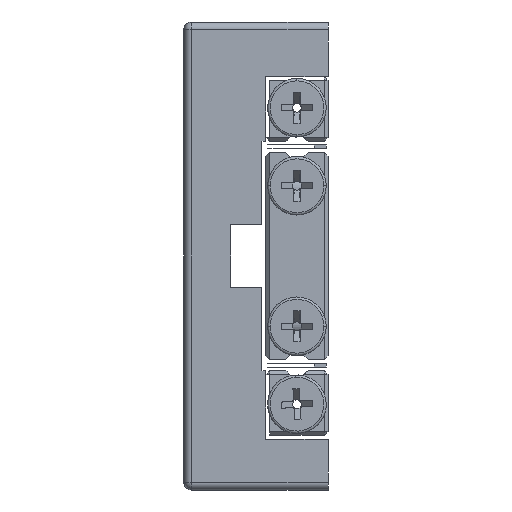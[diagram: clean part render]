
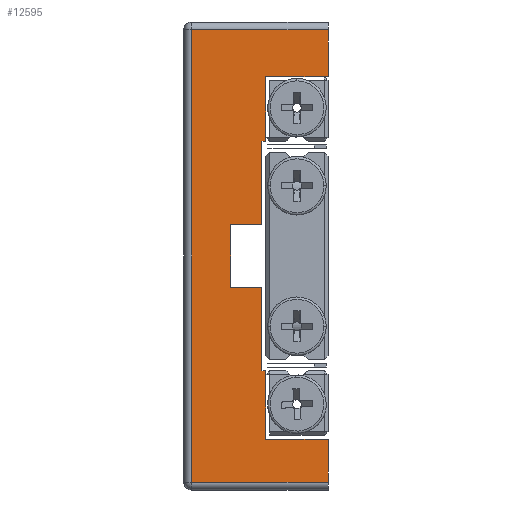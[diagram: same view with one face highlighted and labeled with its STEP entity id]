
A CAD part, left-side view. The second image highlights one B-rep face of the part: STEP entity #12595.
In plain terms, the highlighted planar face has unit normal (-1, 0, 0).
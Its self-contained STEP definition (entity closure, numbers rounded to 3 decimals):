
#987 = EDGE_LOOP ( 'NONE', ( #1232, #1243, #1216, #1215, #1212, #1211, #1208, #1207, #1210, #1209, #1206, #44956, #1205, #1202, #1201, #1203 ) ) ;
#1201 = ORIENTED_EDGE ( 'NONE', *, *, #19878, .T. ) ;
#1202 = ORIENTED_EDGE ( 'NONE', *, *, #31301, .F. ) ;
#1203 = ORIENTED_EDGE ( 'NONE', *, *, #31367, .T. ) ;
#1205 = ORIENTED_EDGE ( 'NONE', *, *, #31305, .F. ) ;
#1206 = ORIENTED_EDGE ( 'NONE', *, *, #31404, .F. ) ;
#1207 = ORIENTED_EDGE ( 'NONE', *, *, #19836, .F. ) ;
#1208 = ORIENTED_EDGE ( 'NONE', *, *, #19865, .F. ) ;
#1209 = ORIENTED_EDGE ( 'NONE', *, *, #31407, .F. ) ;
#1210 = ORIENTED_EDGE ( 'NONE', *, *, #19752, .F. ) ;
#1211 = ORIENTED_EDGE ( 'NONE', *, *, #19822, .F. ) ;
#1212 = ORIENTED_EDGE ( 'NONE', *, *, #19815, .F. ) ;
#1215 = ORIENTED_EDGE ( 'NONE', *, *, #19871, .F. ) ;
#1216 = ORIENTED_EDGE ( 'NONE', *, *, #19880, .T. ) ;
#1232 = ORIENTED_EDGE ( 'NONE', *, *, #19881, .T. ) ;
#1243 = ORIENTED_EDGE ( 'NONE', *, *, #31269, .T. ) ;
#3294 = CARTESIAN_POINT ( 'NONE',  ( -36.964, -1.336, -14.7 ) ) ;
#3301 = CARTESIAN_POINT ( 'NONE',  ( -36.964, -9.836, 29. ) ) ;
#3313 = CARTESIAN_POINT ( 'NONE',  ( -36.964, 7.664, 29. ) ) ;
#3315 = CARTESIAN_POINT ( 'NONE',  ( -36.964, -1.836, -14.7 ) ) ;
#3323 = CARTESIAN_POINT ( 'NONE',  ( -36.964, -1.336, -4. ) ) ;
#3329 = CARTESIAN_POINT ( 'NONE',  ( -36.964, -1.836, 14.7 ) ) ;
#3702 = VERTEX_POINT ( 'NONE', #3323 ) ;
#3705 = VERTEX_POINT ( 'NONE', #3315 ) ;
#3707 = VERTEX_POINT ( 'NONE', #3313 ) ;
#3708 = VERTEX_POINT ( 'NONE', #3329 ) ;
#3714 = VERTEX_POINT ( 'NONE', #3301 ) ;
#3718 = VERTEX_POINT ( 'NONE', #3294 ) ;
#3736 = VERTEX_POINT ( 'NONE', #20467 ) ;
#3740 = VERTEX_POINT ( 'NONE', #20464 ) ;
#3743 = VERTEX_POINT ( 'NONE', #20249 ) ;
#3763 = VERTEX_POINT ( 'NONE', #20502 ) ;
#3911 = VERTEX_POINT ( 'NONE', #20436 ) ;
#3923 = VERTEX_POINT ( 'NONE', #20542 ) ;
#3947 = VERTEX_POINT ( 'NONE', #20521 ) ;
#3957 = VERTEX_POINT ( 'NONE', #20551 ) ;
#3962 = VERTEX_POINT ( 'NONE', #20557 ) ;
#5181 = DIRECTION ( 'NONE',  ( 0., 1., 0. ) ) ;
#5182 = CARTESIAN_POINT ( 'NONE',  ( -36.964, 8.664, 29. ) ) ;
#5295 = CARTESIAN_POINT ( 'NONE',  ( -36.964, -1.336, 14.7 ) ) ;
#5302 = DIRECTION ( 'NONE',  ( 0., 1., 0. ) ) ;
#5337 = CARTESIAN_POINT ( 'NONE',  ( -36.964, -1.336, 4. ) ) ;
#5338 = DIRECTION ( 'NONE',  ( 0., 0., -1. ) ) ;
#5343 = CARTESIAN_POINT ( 'NONE',  ( -36.964, 2.664, 4. ) ) ;
#5345 = DIRECTION ( 'NONE',  ( 0., 1., 0. ) ) ;
#6393 = LINE ( 'NONE', #5295, #6395 ) ;
#6395 = VECTOR ( 'NONE', #5302, 1000. ) ;
#6420 = LINE ( 'NONE', #5337, #6423 ) ;
#6423 = VECTOR ( 'NONE', #5338, 1000. ) ;
#6426 = LINE ( 'NONE', #5343, #6429 ) ;
#6429 = VECTOR ( 'NONE', #5345, 1000. ) ;
#12595 = ADVANCED_FACE ( 'NONE', ( #25104 ), #45834, .F. ) ;
#14059 = CARTESIAN_POINT ( 'NONE',  ( -36.964, 7.664, -29. ) ) ;
#19752 = EDGE_CURVE ( 'NONE', #3947, #3957, #38596, .T. ) ;
#19815 = EDGE_CURVE ( 'NONE', #3705, #3743, #38808, .T. ) ;
#19822 = EDGE_CURVE ( 'NONE', #3718, #3705, #38829, .T. ) ;
#19836 = EDGE_CURVE ( 'NONE', #3957, #3702, #38885, .T. ) ;
#19865 = EDGE_CURVE ( 'NONE', #3702, #3718, #38988, .T. ) ;
#19871 = EDGE_CURVE ( 'NONE', #3743, #3923, #39014, .T. ) ;
#19878 = EDGE_CURVE ( 'NONE', #3736, #3714, #39035, .T. ) ;
#19880 = EDGE_CURVE ( 'NONE', #3911, #3923, #39044, .T. ) ;
#19881 = EDGE_CURVE ( 'NONE', #3707, #45270, #39048, .T. ) ;
#20249 = CARTESIAN_POINT ( 'NONE',  ( -36.964, -1.836, -23.5 ) ) ;
#20436 = CARTESIAN_POINT ( 'NONE',  ( -36.964, -9.836, -29. ) ) ;
#20464 = CARTESIAN_POINT ( 'NONE',  ( -36.964, -1.336, 4. ) ) ;
#20467 = CARTESIAN_POINT ( 'NONE',  ( -36.964, -9.836, 23. ) ) ;
#20502 = CARTESIAN_POINT ( 'NONE',  ( -36.964, -1.836, 23. ) ) ;
#20521 = CARTESIAN_POINT ( 'NONE',  ( -36.964, 2.664, 4. ) ) ;
#20542 = CARTESIAN_POINT ( 'NONE',  ( -36.964, -9.836, -23.5 ) ) ;
#20551 = CARTESIAN_POINT ( 'NONE',  ( -36.964, 2.664, -4. ) ) ;
#20557 = CARTESIAN_POINT ( 'NONE',  ( -36.964, -1.336, 14.7 ) ) ;
#24311 = AXIS2_PLACEMENT_3D ( 'NONE', #45830, #45837, #45838 ) ;
#25104 = FACE_OUTER_BOUND ( 'NONE', #987, .T. ) ;
#31269 = EDGE_CURVE ( 'NONE', #45270, #3911, #35845, .T. ) ;
#31301 = EDGE_CURVE ( 'NONE', #3736, #3763, #35888, .T. ) ;
#31305 = EDGE_CURVE ( 'NONE', #3763, #3708, #35896, .T. ) ;
#31367 = EDGE_CURVE ( 'NONE', #3714, #3707, #35980, .T. ) ;
#31390 = EDGE_CURVE ( 'NONE', #3708, #3962, #6393, .T. ) ;
#31404 = EDGE_CURVE ( 'NONE', #3962, #3740, #6420, .T. ) ;
#31407 = EDGE_CURVE ( 'NONE', #3740, #3947, #6426, .T. ) ;
#35845 = LINE ( 'NONE', #43943, #35848 ) ;
#35848 = VECTOR ( 'NONE', #43944, 1000. ) ;
#35888 = LINE ( 'NONE', #44038, #35891 ) ;
#35891 = VECTOR ( 'NONE', #44041, 1000. ) ;
#35896 = LINE ( 'NONE', #44023, #35898 ) ;
#35898 = VECTOR ( 'NONE', #44025, 1000. ) ;
#35980 = LINE ( 'NONE', #5182, #35982 ) ;
#35982 = VECTOR ( 'NONE', #5181, 1000. ) ;
#38596 = LINE ( 'NONE', #41469, #38605 ) ;
#38605 = VECTOR ( 'NONE', #41475, 1000. ) ;
#38808 = LINE ( 'NONE', #41705, #38813 ) ;
#38813 = VECTOR ( 'NONE', #41706, 1000. ) ;
#38829 = LINE ( 'NONE', #41730, #38835 ) ;
#38835 = VECTOR ( 'NONE', #41731, 1000. ) ;
#38885 = LINE ( 'NONE', #41757, #38891 ) ;
#38891 = VECTOR ( 'NONE', #41758, 1000. ) ;
#38988 = LINE ( 'NONE', #41915, #38995 ) ;
#38995 = VECTOR ( 'NONE', #41918, 1000. ) ;
#39014 = LINE ( 'NONE', #41945, #39020 ) ;
#39020 = VECTOR ( 'NONE', #41948, 1000. ) ;
#39035 = LINE ( 'NONE', #41993, #39041 ) ;
#39041 = VECTOR ( 'NONE', #41997, 1000. ) ;
#39044 = LINE ( 'NONE', #42003, #39050 ) ;
#39048 = LINE ( 'NONE', #42008, #39053 ) ;
#39050 = VECTOR ( 'NONE', #42006, 1000. ) ;
#39053 = VECTOR ( 'NONE', #42011, 1000. ) ;
#41469 = CARTESIAN_POINT ( 'NONE',  ( -36.964, 2.664, -4. ) ) ;
#41475 = DIRECTION ( 'NONE',  ( 0., 0., -1. ) ) ;
#41705 = CARTESIAN_POINT ( 'NONE',  ( -36.964, -1.836, -23.5 ) ) ;
#41706 = DIRECTION ( 'NONE',  ( 0., 0., -1. ) ) ;
#41730 = CARTESIAN_POINT ( 'NONE',  ( -36.964, -1.836, -14.7 ) ) ;
#41731 = DIRECTION ( 'NONE',  ( 0., -1., 0. ) ) ;
#41757 = CARTESIAN_POINT ( 'NONE',  ( -36.964, -1.336, -4. ) ) ;
#41758 = DIRECTION ( 'NONE',  ( 0., -1., 0. ) ) ;
#41915 = CARTESIAN_POINT ( 'NONE',  ( -36.964, -1.336, -14.7 ) ) ;
#41918 = DIRECTION ( 'NONE',  ( 0., 0., -1. ) ) ;
#41945 = CARTESIAN_POINT ( 'NONE',  ( -36.964, -1.836, -23.5 ) ) ;
#41948 = DIRECTION ( 'NONE',  ( 0., -1., 0. ) ) ;
#41993 = CARTESIAN_POINT ( 'NONE',  ( -36.964, -9.836, -30. ) ) ;
#41997 = DIRECTION ( 'NONE',  ( 0., 0., 1. ) ) ;
#42003 = CARTESIAN_POINT ( 'NONE',  ( -36.964, -9.836, -30. ) ) ;
#42006 = DIRECTION ( 'NONE',  ( 0., 0., 1. ) ) ;
#42008 = CARTESIAN_POINT ( 'NONE',  ( -36.964, 7.664, -30. ) ) ;
#42011 = DIRECTION ( 'NONE',  ( 0., 0., -1. ) ) ;
#43943 = CARTESIAN_POINT ( 'NONE',  ( -36.964, 8.664, -29. ) ) ;
#43944 = DIRECTION ( 'NONE',  ( 0., -1., 0. ) ) ;
#44023 = CARTESIAN_POINT ( 'NONE',  ( -36.964, -1.836, 14.7 ) ) ;
#44025 = DIRECTION ( 'NONE',  ( 0., 0., -1. ) ) ;
#44038 = CARTESIAN_POINT ( 'NONE',  ( -36.964, -1.836, 23. ) ) ;
#44041 = DIRECTION ( 'NONE',  ( 0., 1., 0. ) ) ;
#44956 = ORIENTED_EDGE ( 'NONE', *, *, #31390, .F. ) ;
#45270 = VERTEX_POINT ( 'NONE', #14059 ) ;
#45830 = CARTESIAN_POINT ( 'NONE',  ( -36.964, 8.664, -30. ) ) ;
#45834 = PLANE ( 'NONE',  #24311 ) ;
#45837 = DIRECTION ( 'NONE',  ( 1., 0., 0. ) ) ;
#45838 = DIRECTION ( 'NONE',  ( 0., 0., -1. ) ) ;
